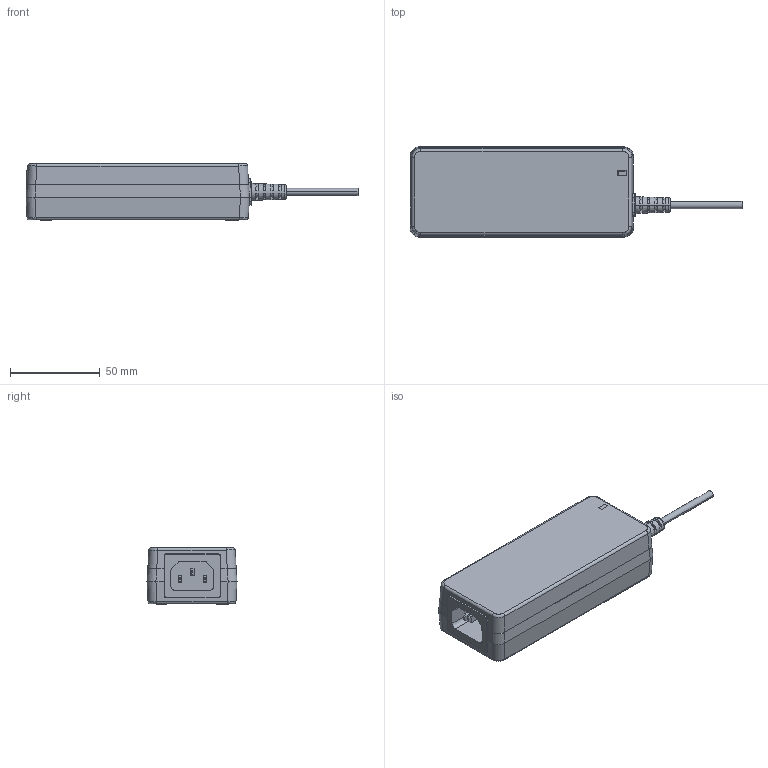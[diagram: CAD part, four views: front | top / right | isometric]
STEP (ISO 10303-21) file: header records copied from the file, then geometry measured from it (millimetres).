
FILE_DESCRIPTION(('Creo Elements/Direct Modeling STEP Export'),'2;1');
FILE_NAME('GSM40A.stp','2020-02-13T14:06:12',(''),(''),'PTC Creo Elements/Direct Modeling STEP processor for AP214 (Solid Model)','PTC Creo Elements/Direct Modeling 19.0E 27-Jun-2016 (C) Parametric Technology GmbH','');
FILE_SCHEMA(('AUTOMOTIVE_DESIGN { 1 0 10303 214 1 1 1 1 }'));
Length unit declared in the file: millimetre
Products named in the file (10): SCRW.PRT; FF.PRT; MSBR_1_1.PRT; LENS.PRT; SOKECT_1_1.PRT; OTHER.ASM; N-COVER.PRT; N-BASE.PRT; CASE.ASM; GSM40A
Assembly tree (9 placements, depth 3):
  GSM40A
    CASE.ASM
      N-BASE.PRT
      N-COVER.PRT
    OTHER.ASM
      SOKECT_1_1.PRT
      LENS.PRT
      MSBR_1_1.PRT
      FF.PRT
      SCRW.PRT
Bounding box: 185.29 x 50.24 x 31.8 mm (x, y, z)
Volume: 53951.6 mm3; surface area: 54095 mm2
Topology: 7 solids, 7 shells, 663 faces, 1714 edges, 1109 vertices
Faces by surface type: plane 452, cylinder 170, torus 17, cone 12, bspline 7, sphere 4, extrusion 1
Entity records: 21244 total; most frequent: CARTESIAN_POINT 4736, ORIENTED_EDGE 3420, DIRECTION 3184, EDGE_CURVE 1710, VECTOR 1250, LINE 1249, VERTEX_POINT 1109, AXIS2_PLACEMENT_3D 967
